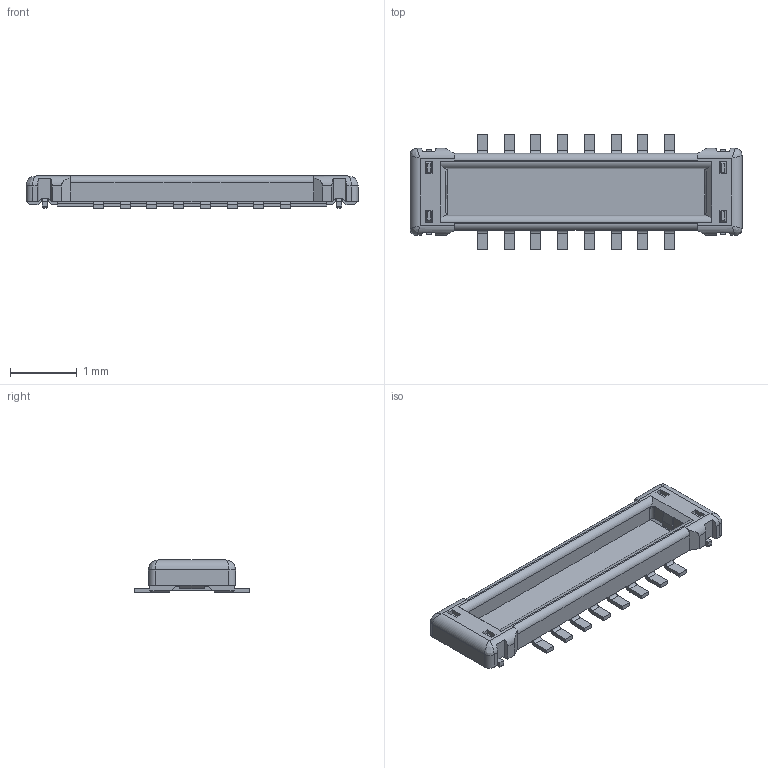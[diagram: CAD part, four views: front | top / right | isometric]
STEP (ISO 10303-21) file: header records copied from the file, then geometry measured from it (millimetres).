
FILE_DESCRIPTION(('CATIA V5 STEP Exchange'),'2;1');
FILE_NAME('D:\(編集厳禁)\3D 備用 (編集厳禁)\3D 備用5xxx拘束済み\5806-李-2 PIN変更 ●\業務用\8.20.13\002 Type\10_5806_016_002_829_+.stp','2013-08-20T01:23:55+00:00',('none'),('none'),'CATIA Version 5 Release 19 SP 8 (IN-10)','CATIA V5 STEP AP214','none');
FILE_SCHEMA(('AUTOMOTIVE_DESIGN { 1 0 10303 214 1 1 1 1 }'));
Length unit declared in the file: millimetre
Products named in the file (1): Plug_W_AP_Rev0_AllCATPart
Bounding box: 4.96 x 1.72 x 0.48 mm (x, y, z)
Volume: 1.6 mm3; surface area: 24 mm2
Topology: 1 solids, 1 shells, 373 faces, 1131 edges, 757 vertices
Faces by surface type: plane 295, cylinder 70, torus 4, bspline 4
Entity records: 12496 total; most frequent: CARTESIAN_POINT 3243, ORIENTED_EDGE 2262, DIRECTION 1401, EDGE_CURVE 1131, VECTOR 905, LINE 905, VERTEX_POINT 757, EDGE_LOOP 382
